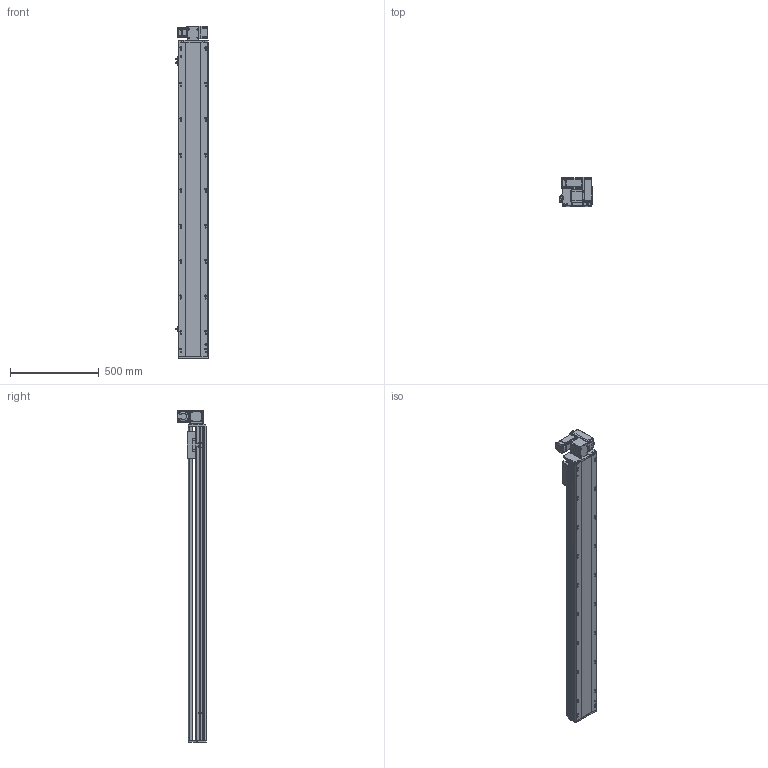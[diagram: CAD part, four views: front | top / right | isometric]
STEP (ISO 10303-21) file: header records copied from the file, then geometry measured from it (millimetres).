
FILE_DESCRIPTION (( 'STEP AP214' ), '1' );
FILE_NAME ('RTB17S-XX-1500-RW-M40-C4.STEP', '2025-12-11T09:03:58', ( '' ), ( '' ), 'SwSTEP 2.0', 'SolidWorks 2018', '' );
FILE_SCHEMA (( 'AUTOMOTIVE_DESIGN' ));
Length unit declared in the file: millimetre
Products named in the file (14): RTB17S-L-001耜醱啣^RTB17S-XX-XX-RW-M40-C4; RTB14-L-017P^RTB17S-RW-々湍釱蚾饜-400W_RTB17S-XX-XX-RW-M40-C4; OMRON EE-SX672 传感器^RTB17S-XX-XX-RW-M40-C4; RTB17S-XX-1500-RW-M40-C4; RTB17S-RW-々湍釱蚾饜-400W^RTB17S-XX-XX-RW-M40-C4; RTB17S-L-004佪裝蹟譫蟀諉釱^RTB17S-XX-XX-RW-M40-C4; RTB14-L-005P--轴承塑胶压盖^RTB17S-RW-皮带座装配-400W_RTB17S-XX-XX-RW-M40-C4; RTB14-L-018P^RTB17S-RW-々湍釱蚾饜-400W_RTB17S-XX-XX-RW-M40-C4; RTB17-R-011菁釱^RTB17S-XX-XX-RW-M40-C4; 400W侜督萇儂^RTB17S-XX-XX-RW-M40-C4; RTH13-BL-012覜茼え俋离^RTB17S-XX-XX-RW-M40-C4; RMP17S-L-014-T20--々湍釱^RTB17S-RW-々湍釱蚾饜-400W_RTB17S-XX-XX-RW-M40-C4; RTB17S-L-007奻裔^RTB17S-XX-XX-RW-M40-C4; RTB14-L-008-M20--萇儂啣^RTB17S-RW-々湍釱蚾饜-400W_RTB17S-XX-XX-RW-M40-C4
Assembly tree (16 placements, depth 3):
  RTB17S-XX-1500-RW-M40-C4
    RTB17-R-011菁釱^RTB17S-XX-XX-RW-M40-C4
    RTB17S-L-007奻裔^RTB17S-XX-XX-RW-M40-C4
    OMRON EE-SX672 传感器^RTB17S-XX-XX-RW-M40-C4  x3
    RTB17S-L-001耜醱啣^RTB17S-XX-XX-RW-M40-C4
    400W侜督萇儂^RTB17S-XX-XX-RW-M40-C4
    RTB17S-L-004佪裝蹟譫蟀諉釱^RTB17S-XX-XX-RW-M40-C4
    RTH13-BL-012覜茼え俋离^RTB17S-XX-XX-RW-M40-C4
    RTB17S-RW-々湍釱蚾饜-400W^RTB17S-XX-XX-RW-M40-C4
      RMP17S-L-014-T20--々湍釱^RTB17S-RW-々湍釱蚾饜-400W_RTB17S-XX-XX-RW-M40-C4
      RTB14-L-005P--轴承塑胶压盖^RTB17S-RW-皮带座装配-400W_RTB17S-XX-XX-RW-M40-C4
      RTB14-L-008-M20--萇儂啣^RTB17S-RW-々湍釱蚾饜-400W_RTB17S-XX-XX-RW-M40-C4
      RTB14-L-017P^RTB17S-RW-々湍釱蚾饜-400W_RTB17S-XX-XX-RW-M40-C4  x2
      RTB14-L-018P^RTB17S-RW-々湍釱蚾饜-400W_RTB17S-XX-XX-RW-M40-C4
Bounding box: 183.5 x 160.5 x 1872.5 mm (x, y, z)
Volume: 16449197.5 mm3; surface area: 1943609.8 mm2
Topology: 15 solids, 15 shells, 2253 faces, 6249 edges, 4077 vertices
Faces by surface type: plane 1074, cylinder 731, bspline 301, cone 139, torus 8
Entity records: 64937 total; most frequent: CARTESIAN_POINT 18254, ORIENTED_EDGE 9342, DIRECTION 8666, EDGE_CURVE 4671, VERTEX_POINT 3065, AXIS2_PLACEMENT_3D 2995, VECTOR 2676, LINE 2676
